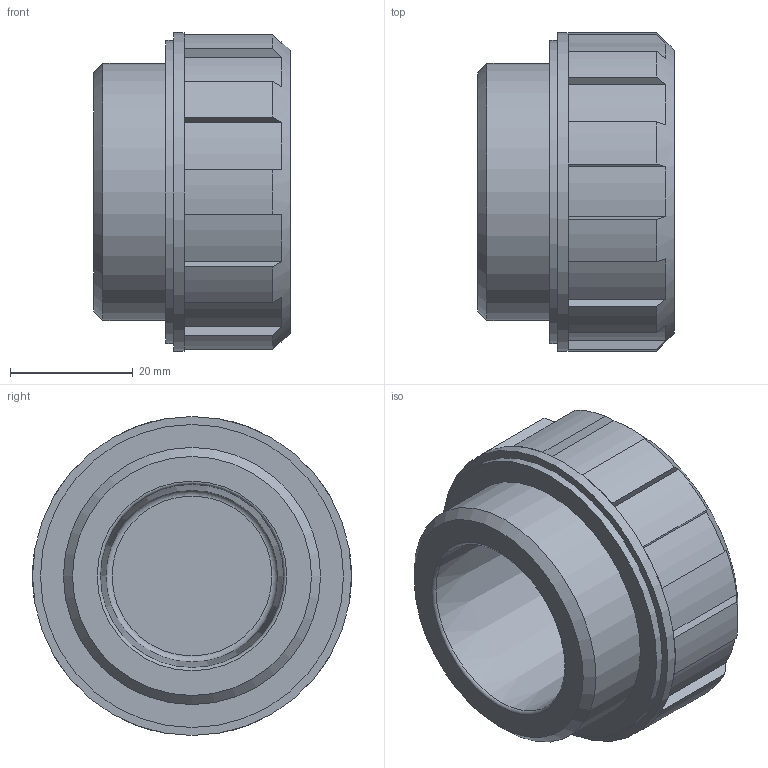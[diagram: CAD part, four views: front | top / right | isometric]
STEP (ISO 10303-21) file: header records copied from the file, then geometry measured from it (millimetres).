
FILE_DESCRIPTION( ( 'STEP AP203' ), '1' );
FILE_NAME( 'C:/Temp/Ganter_Step_05_03_2020/data/3_5/gn548_1/Plug GN 548.1-G11_4-A.stp', '2020-03-12T13:35:44', ( 'License CC BY-ND 4.0' ), ( 'CADENAS' ), ' ', 'PARTsolutions', ' ' );
FILE_SCHEMA( ( 'CONFIG_CONTROL_DESIGN' ) );
Length unit declared in the file: millimetre
Products named in the file (1): _Plug GN 548.1-G11/4-A
Bounding box: 32 x 52 x 52 mm (x, y, z)
Volume: 37824.1 mm3; surface area: 11967.5 mm2
Topology: 1 solids, 1 shells, 56 faces, 145 edges, 96 vertices
Faces by surface type: plane 27, cylinder 24, cone 3, torus 2
Full cylindrical faces by diameter (mm): 41.91 x1, 47.273 x1, 49.4 x1, 52 x1
Entity records: 1728 total; most frequent: CARTESIAN_POINT 345, DIRECTION 282, ORIENTED_EDGE 268, EDGE_CURVE 134, AXIS2_PLACEMENT_3D 111, VERTEX_POINT 94, EDGE_LOOP 70, FACE_OUTER_BOUND 62
